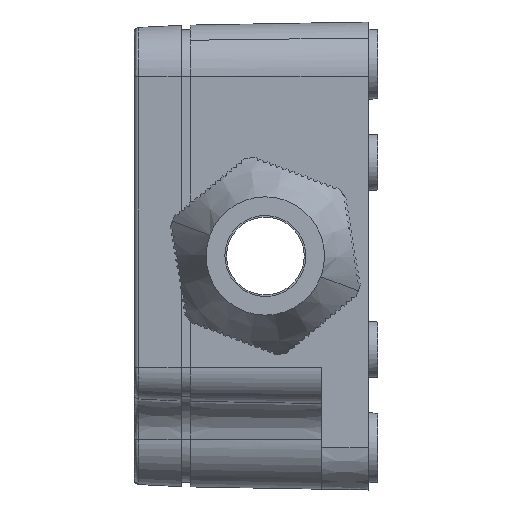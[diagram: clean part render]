
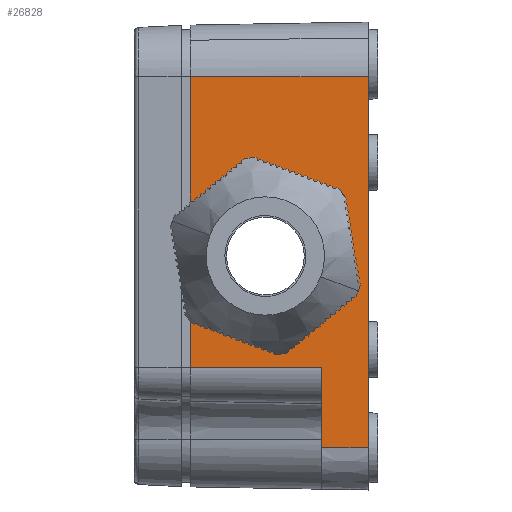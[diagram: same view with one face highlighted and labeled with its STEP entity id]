
A CAD part, left-side view. The second image highlights one B-rep face of the part: STEP entity #26828.
In plain terms, the highlighted planar face has unit normal (-1, 0.018, 0).
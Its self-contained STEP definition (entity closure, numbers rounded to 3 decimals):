
#792 = PLANE ( 'NONE',  #36563 ) ;
#899 = LINE ( 'NONE', #39917, #7353 ) ;
#994 = EDGE_CURVE ( 'NONE', #32196, #39733, #9438, .T. ) ;
#1083 = ORIENTED_EDGE ( 'NONE', *, *, #31723, .T. ) ;
#1485 = VECTOR ( 'NONE', #34997, 1000. ) ;
#1905 = CARTESIAN_POINT ( 'NONE',  ( -39.571, 24.55, 6.775 ) ) ;
#2429 = CARTESIAN_POINT ( 'NONE',  ( -8750.077, -499000., -20.5 ) ) ;
#2564 = VERTEX_POINT ( 'NONE', #41120 ) ;
#2575 = DIRECTION ( 'NONE',  ( 0., 0., -1. ) ) ;
#3437 = LINE ( 'NONE', #38594, #4166 ) ;
#3866 = CARTESIAN_POINT ( 'NONE',  ( -40.045, -2.55, 6.775 ) ) ;
#4166 = VECTOR ( 'NONE', #16507, 1000. ) ;
#4450 = VECTOR ( 'NONE', #2575, 1000. ) ;
#5782 = VERTEX_POINT ( 'NONE', #35605 ) ;
#6217 = ORIENTED_EDGE ( 'NONE', *, *, #10216, .T. ) ;
#7134 = DIRECTION ( 'NONE',  ( -0.017, -1., 0. ) ) ;
#7353 = VECTOR ( 'NONE', #7134, 1000. ) ;
#7679 = VERTEX_POINT ( 'NONE', #31868 ) ;
#7702 =( BOUNDED_CURVE ( )  B_SPLINE_CURVE ( 3, ( #22974, #3866, #13321, #16933 ),
 .UNSPECIFIED., .F., .F. ) 
 B_SPLINE_CURVE_WITH_KNOTS ( ( 4, 4 ),
 ( 1.571, 4.712 ),
 .UNSPECIFIED. ) 
 CURVE ( )  GEOMETRIC_REPRESENTATION_ITEM ( )  RATIONAL_B_SPLINE_CURVE ( ( 1., 0.333, 0.333, 1. ) ) 
 REPRESENTATION_ITEM ( '' )  );
#8133 = DIRECTION ( 'NONE',  ( 0., 0., -1. ) ) ;
#8571 = CARTESIAN_POINT ( 'NONE',  ( -39.808, 11., -6.775 ) ) ;
#9438 = LINE ( 'NONE', #19079, #4450 ) ;
#10216 = EDGE_CURVE ( 'NONE', #39733, #5782, #899, .T. ) ;
#10700 = ORIENTED_EDGE ( 'NONE', *, *, #33404, .F. ) ;
#11565 = CARTESIAN_POINT ( 'NONE',  ( -39.571, 24.55, -6.775 ) ) ;
#11832 = CARTESIAN_POINT ( 'NONE',  ( -39.668, 19., 19.152 ) ) ;
#11959 = EDGE_CURVE ( 'NONE', #28091, #30415, #15425, .T. ) ;
#13321 = CARTESIAN_POINT ( 'NONE',  ( -40.045, -2.55, -6.775 ) ) ;
#14359 = CARTESIAN_POINT ( 'NONE',  ( -39.808, 11., 6.775 ) ) ;
#15425 = LINE ( 'NONE', #41133, #32739 ) ;
#15534 = LINE ( 'NONE', #22178, #20863 ) ;
#15664 = ORIENTED_EDGE ( 'NONE', *, *, #24721, .T. ) ;
#16507 = DIRECTION ( 'NONE',  ( 0., 0., -1. ) ) ;
#16661 = ORIENTED_EDGE ( 'NONE', *, *, #16735, .T. ) ;
#16735 = EDGE_CURVE ( 'NONE', #2564, #28983, #38889, .T. ) ;
#16933 = CARTESIAN_POINT ( 'NONE',  ( -39.808, 11., -6.775 ) ) ;
#17088 = CARTESIAN_POINT ( 'NONE',  ( -39.651, 20., 20.5 ) ) ;
#18767 = EDGE_LOOP ( 'NONE', ( #10700, #39703, #41677, #25539, #6217, #1083 ) ) ;
#19079 = CARTESIAN_POINT ( 'NONE',  ( -39.668, 19., 20.5 ) ) ;
#19481 = FACE_BOUND ( 'NONE', #34774, .T. ) ;
#20863 = VECTOR ( 'NONE', #35886, 1000. ) ;
#20953 = DIRECTION ( 'NONE',  ( -0.017, -1., 0. ) ) ;
#22178 = CARTESIAN_POINT ( 'NONE',  ( -39.651, 20., 19.152 ) ) ;
#22698 = FACE_OUTER_BOUND ( 'NONE', #18767, .T. ) ;
#22974 = CARTESIAN_POINT ( 'NONE',  ( -39.808, 11., 6.775 ) ) ;
#24721 = EDGE_CURVE ( 'NONE', #28983, #2564, #7702, .T. ) ;
#25539 = ORIENTED_EDGE ( 'NONE', *, *, #994, .T. ) ;
#26828 = ADVANCED_FACE ( 'NONE', ( #22698, #19481 ), #792, .T. ) ;
#26831 = CARTESIAN_POINT ( 'NONE',  ( -40., 0., -20.5 ) ) ;
#28091 = VERTEX_POINT ( 'NONE', #37704 ) ;
#28154 = LINE ( 'NONE', #2429, #1485 ) ;
#28718 = EDGE_CURVE ( 'NONE', #28091, #32196, #15534, .T. ) ;
#28854 = CARTESIAN_POINT ( 'NONE',  ( -39.668, 19., -11.9 ) ) ;
#28983 = VERTEX_POINT ( 'NONE', #40559 ) ;
#30415 = VERTEX_POINT ( 'NONE', #26831 ) ;
#31723 = EDGE_CURVE ( 'NONE', #5782, #7679, #3437, .T. ) ;
#31868 = CARTESIAN_POINT ( 'NONE',  ( -39.913, 5., -20.5 ) ) ;
#32196 = VERTEX_POINT ( 'NONE', #11832 ) ;
#32739 = VECTOR ( 'NONE', #8133, 1000. ) ;
#33404 = EDGE_CURVE ( 'NONE', #30415, #7679, #28154, .T. ) ;
#34774 = EDGE_LOOP ( 'NONE', ( #16661, #15664 ) ) ;
#34997 = DIRECTION ( 'NONE',  ( 0.017, 1., 0. ) ) ;
#35605 = CARTESIAN_POINT ( 'NONE',  ( -39.913, 5., -11.9 ) ) ;
#35886 = DIRECTION ( 'NONE',  ( 0.017, 1., 0. ) ) ;
#36563 = AXIS2_PLACEMENT_3D ( 'NONE', #17088, #36614, #20953 ) ;
#36614 = DIRECTION ( 'NONE',  ( -1., 0.017, 0. ) ) ;
#37704 = CARTESIAN_POINT ( 'NONE',  ( -40., 0., 19.152 ) ) ;
#38594 = CARTESIAN_POINT ( 'NONE',  ( -39.913, 5., 20.5 ) ) ;
#38889 =( BOUNDED_CURVE ( )  B_SPLINE_CURVE ( 3, ( #8571, #11565, #1905, #14359 ),
 .UNSPECIFIED., .F., .F. ) 
 B_SPLINE_CURVE_WITH_KNOTS ( ( 4, 4 ),
 ( 4.712, 7.854 ),
 .UNSPECIFIED. ) 
 CURVE ( )  GEOMETRIC_REPRESENTATION_ITEM ( )  RATIONAL_B_SPLINE_CURVE ( ( 1., 0.333, 0.333, 1. ) ) 
 REPRESENTATION_ITEM ( '' )  );
#39703 = ORIENTED_EDGE ( 'NONE', *, *, #11959, .F. ) ;
#39733 = VERTEX_POINT ( 'NONE', #28854 ) ;
#39917 = CARTESIAN_POINT ( 'NONE',  ( -39.651, 20., -11.9 ) ) ;
#40559 = CARTESIAN_POINT ( 'NONE',  ( -39.808, 11., 6.775 ) ) ;
#41120 = CARTESIAN_POINT ( 'NONE',  ( -39.808, 11., -6.775 ) ) ;
#41133 = CARTESIAN_POINT ( 'NONE',  ( -40., 0., 20.5 ) ) ;
#41677 = ORIENTED_EDGE ( 'NONE', *, *, #28718, .T. ) ;
